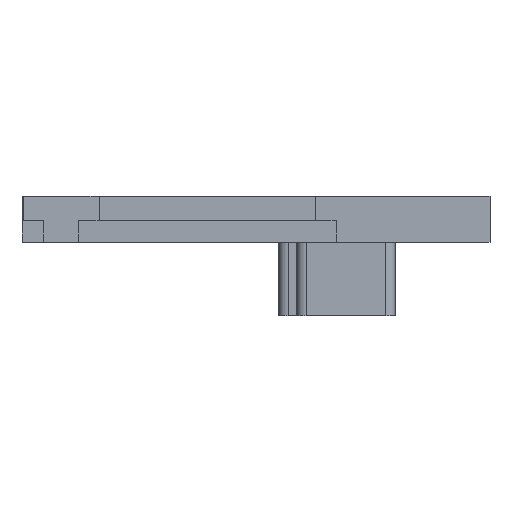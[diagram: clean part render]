
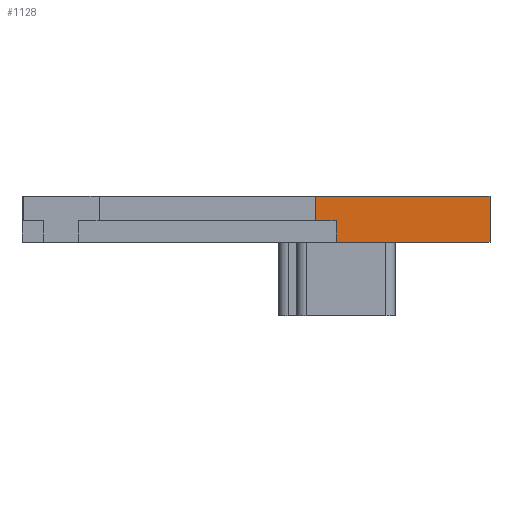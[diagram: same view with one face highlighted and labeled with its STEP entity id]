
A CAD part, front view. The second image highlights one B-rep face of the part: STEP entity #1128.
In plain terms, the highlighted planar face has unit normal (0, -1, 0).
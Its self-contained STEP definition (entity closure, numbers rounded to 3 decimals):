
#32 = PLANE('',#33);
#33 = AXIS2_PLACEMENT_3D('',#34,#35,#36);
#34 = CARTESIAN_POINT('',(-47.,-47.,25.));
#35 = DIRECTION('',(0.,0.,1.));
#36 = DIRECTION('',(1.,0.,-0.));
#331 = VERTEX_POINT('',#332);
#332 = CARTESIAN_POINT('',(35.625,16.5,25.));
#346 = PLANE('',#347);
#347 = AXIS2_PLACEMENT_3D('',#348,#349,#350);
#348 = CARTESIAN_POINT('',(35.625,2.475,21.));
#349 = DIRECTION('',(1.,0.,0.));
#350 = DIRECTION('',(0.,0.,1.));
#358 = EDGE_CURVE('',#359,#331,#361,.T.);
#359 = VERTEX_POINT('',#360);
#360 = CARTESIAN_POINT('',(47.,16.5,25.));
#361 = SURFACE_CURVE('',#362,(#366,#372),.PCURVE_S1.);
#362 = LINE('',#363,#364);
#363 = CARTESIAN_POINT('',(-15.25,16.5,25.));
#364 = VECTOR('',#365,1.);
#365 = DIRECTION('',(-1.,0.,0.));
#366 = PCURVE('',#32,#367);
#367 = DEFINITIONAL_REPRESENTATION('',(#368),#371);
#368 = B_SPLINE_CURVE_WITH_KNOTS('',1,(#369,#370),.UNSPECIFIED.,.F.,.F.,
  (2,2),(-62.25,-31.75),.PIECEWISE_BEZIER_KNOTS.);
#369 = CARTESIAN_POINT('',(94.,63.5));
#370 = CARTESIAN_POINT('',(63.5,63.5));
#371 = ( GEOMETRIC_REPRESENTATION_CONTEXT(2) 
PARAMETRIC_REPRESENTATION_CONTEXT() REPRESENTATION_CONTEXT('2D SPACE',''
  ) );
#372 = PCURVE('',#373,#378);
#373 = PLANE('',#374);
#374 = AXIS2_PLACEMENT_3D('',#375,#376,#377);
#375 = CARTESIAN_POINT('',(16.5,16.5,12.));
#376 = DIRECTION('',(0.,1.,0.));
#377 = DIRECTION('',(0.,0.,1.));
#378 = DEFINITIONAL_REPRESENTATION('',(#379),#382);
#379 = B_SPLINE_CURVE_WITH_KNOTS('',1,(#380,#381),.UNSPECIFIED.,.F.,.F.,
  (2,2),(-62.25,-31.75),.PIECEWISE_BEZIER_KNOTS.);
#380 = CARTESIAN_POINT('',(13.,30.5));
#381 = CARTESIAN_POINT('',(13.,0.));
#382 = ( GEOMETRIC_REPRESENTATION_CONTEXT(2) 
PARAMETRIC_REPRESENTATION_CONTEXT() REPRESENTATION_CONTEXT('2D SPACE',''
  ) );
#400 = PLANE('',#401);
#401 = AXIS2_PLACEMENT_3D('',#402,#403,#404);
#402 = CARTESIAN_POINT('',(47.,-47.,22.));
#403 = DIRECTION('',(1.,0.,0.));
#404 = DIRECTION('',(0.,0.,1.));
#975 = PLANE('',#976);
#976 = AXIS2_PLACEMENT_3D('',#977,#978,#979);
#977 = CARTESIAN_POINT('',(-47.,-47.,22.));
#978 = DIRECTION('',(0.,0.,1.));
#979 = DIRECTION('',(1.,0.,-0.));
#1084 = EDGE_CURVE('',#1085,#359,#1087,.T.);
#1085 = VERTEX_POINT('',#1086);
#1086 = CARTESIAN_POINT('',(47.,16.5,22.));
#1087 = SURFACE_CURVE('',#1088,(#1092,#1099),.PCURVE_S1.);
#1088 = LINE('',#1089,#1090);
#1089 = CARTESIAN_POINT('',(47.,16.5,12.));
#1090 = VECTOR('',#1091,1.);
#1091 = DIRECTION('',(0.,0.,1.));
#1092 = PCURVE('',#400,#1093);
#1093 = DEFINITIONAL_REPRESENTATION('',(#1094),#1098);
#1094 = LINE('',#1095,#1096);
#1095 = CARTESIAN_POINT('',(-10.,-63.5));
#1096 = VECTOR('',#1097,1.);
#1097 = DIRECTION('',(1.,0.));
#1098 = ( GEOMETRIC_REPRESENTATION_CONTEXT(2) 
PARAMETRIC_REPRESENTATION_CONTEXT() REPRESENTATION_CONTEXT('2D SPACE',''
  ) );
#1099 = PCURVE('',#373,#1100);
#1100 = DEFINITIONAL_REPRESENTATION('',(#1101),#1105);
#1101 = LINE('',#1102,#1103);
#1102 = CARTESIAN_POINT('',(0.,30.5));
#1103 = VECTOR('',#1104,1.);
#1104 = DIRECTION('',(1.,0.));
#1105 = ( GEOMETRIC_REPRESENTATION_CONTEXT(2) 
PARAMETRIC_REPRESENTATION_CONTEXT() REPRESENTATION_CONTEXT('2D SPACE',''
  ) );
#1128 = ADVANCED_FACE('',(#1129),#373,.F.);
#1129 = FACE_BOUND('',#1130,.F.);
#1130 = EDGE_LOOP('',(#1131,#1132,#1153,#1179,#1205,#1224));
#1131 = ORIENTED_EDGE('',*,*,#1084,.F.);
#1132 = ORIENTED_EDGE('',*,*,#1133,.T.);
#1133 = EDGE_CURVE('',#1085,#1134,#1136,.T.);
#1134 = VERTEX_POINT('',#1135);
#1135 = CARTESIAN_POINT('',(36.975,16.5,22.));
#1136 = SURFACE_CURVE('',#1137,(#1141,#1147),.PCURVE_S1.);
#1137 = LINE('',#1138,#1139);
#1138 = CARTESIAN_POINT('',(-15.25,16.5,22.));
#1139 = VECTOR('',#1140,1.);
#1140 = DIRECTION('',(-1.,0.,0.));
#1141 = PCURVE('',#373,#1142);
#1142 = DEFINITIONAL_REPRESENTATION('',(#1143),#1146);
#1143 = B_SPLINE_CURVE_WITH_KNOTS('',1,(#1144,#1145),.UNSPECIFIED.,.F.,
  .F.,(2,2),(-62.25,-31.75),.PIECEWISE_BEZIER_KNOTS.);
#1144 = CARTESIAN_POINT('',(10.,30.5));
#1145 = CARTESIAN_POINT('',(10.,0.));
#1146 = ( GEOMETRIC_REPRESENTATION_CONTEXT(2) 
PARAMETRIC_REPRESENTATION_CONTEXT() REPRESENTATION_CONTEXT('2D SPACE',''
  ) );
#1147 = PCURVE('',#975,#1148);
#1148 = DEFINITIONAL_REPRESENTATION('',(#1149),#1152);
#1149 = B_SPLINE_CURVE_WITH_KNOTS('',1,(#1150,#1151),.UNSPECIFIED.,.F.,
  .F.,(2,2),(-62.25,-31.75),.PIECEWISE_BEZIER_KNOTS.);
#1150 = CARTESIAN_POINT('',(94.,63.5));
#1151 = CARTESIAN_POINT('',(63.5,63.5));
#1152 = ( GEOMETRIC_REPRESENTATION_CONTEXT(2) 
PARAMETRIC_REPRESENTATION_CONTEXT() REPRESENTATION_CONTEXT('2D SPACE',''
  ) );
#1153 = ORIENTED_EDGE('',*,*,#1154,.T.);
#1154 = EDGE_CURVE('',#1134,#1155,#1157,.T.);
#1155 = VERTEX_POINT('',#1156);
#1156 = CARTESIAN_POINT('',(36.975,16.5,23.4));
#1157 = SURFACE_CURVE('',#1158,(#1162,#1168),.PCURVE_S1.);
#1158 = LINE('',#1159,#1160);
#1159 = CARTESIAN_POINT('',(36.975,16.5,16.995));
#1160 = VECTOR('',#1161,1.);
#1161 = DIRECTION('',(0.,0.,1.));
#1162 = PCURVE('',#373,#1163);
#1163 = DEFINITIONAL_REPRESENTATION('',(#1164),#1167);
#1164 = B_SPLINE_CURVE_WITH_KNOTS('',1,(#1165,#1166),.UNSPECIFIED.,.F.,
  .F.,(2,2),(5.005,6.405),.PIECEWISE_BEZIER_KNOTS.);
#1165 = CARTESIAN_POINT('',(10.,20.475));
#1166 = CARTESIAN_POINT('',(11.4,20.475));
#1167 = ( GEOMETRIC_REPRESENTATION_CONTEXT(2) 
PARAMETRIC_REPRESENTATION_CONTEXT() REPRESENTATION_CONTEXT('2D SPACE',''
  ) );
#1168 = PCURVE('',#1169,#1174);
#1169 = PLANE('',#1170);
#1170 = AXIS2_PLACEMENT_3D('',#1171,#1172,#1173);
#1171 = CARTESIAN_POINT('',(36.975,1.125,21.99));
#1172 = DIRECTION('',(1.,0.,0.));
#1173 = DIRECTION('',(0.,0.,1.));
#1174 = DEFINITIONAL_REPRESENTATION('',(#1175),#1178);
#1175 = B_SPLINE_CURVE_WITH_KNOTS('',1,(#1176,#1177),.UNSPECIFIED.,.F.,
  .F.,(2,2),(5.005,6.405),.PIECEWISE_BEZIER_KNOTS.);
#1176 = CARTESIAN_POINT('',(0.01,-15.375));
#1177 = CARTESIAN_POINT('',(1.41,-15.375));
#1178 = ( GEOMETRIC_REPRESENTATION_CONTEXT(2) 
PARAMETRIC_REPRESENTATION_CONTEXT() REPRESENTATION_CONTEXT('2D SPACE',''
  ) );
#1179 = ORIENTED_EDGE('',*,*,#1180,.T.);
#1180 = EDGE_CURVE('',#1155,#1181,#1183,.T.);
#1181 = VERTEX_POINT('',#1182);
#1182 = CARTESIAN_POINT('',(35.625,16.5,23.4));
#1183 = SURFACE_CURVE('',#1184,(#1188,#1194),.PCURVE_S1.);
#1184 = LINE('',#1185,#1186);
#1185 = CARTESIAN_POINT('',(18.338,16.5,23.4));
#1186 = VECTOR('',#1187,1.);
#1187 = DIRECTION('',(-1.,0.,0.));
#1188 = PCURVE('',#373,#1189);
#1189 = DEFINITIONAL_REPRESENTATION('',(#1190),#1193);
#1190 = B_SPLINE_CURVE_WITH_KNOTS('',1,(#1191,#1192),.UNSPECIFIED.,.F.,
  .F.,(2,2),(-18.638,-1.838),.PIECEWISE_BEZIER_KNOTS.);
#1191 = CARTESIAN_POINT('',(11.4,20.475));
#1192 = CARTESIAN_POINT('',(11.4,3.675));
#1193 = ( GEOMETRIC_REPRESENTATION_CONTEXT(2) 
PARAMETRIC_REPRESENTATION_CONTEXT() REPRESENTATION_CONTEXT('2D SPACE',''
  ) );
#1194 = PCURVE('',#1195,#1200);
#1195 = PLANE('',#1196);
#1196 = AXIS2_PLACEMENT_3D('',#1197,#1198,#1199);
#1197 = CARTESIAN_POINT('',(20.175,1.125,23.4));
#1198 = DIRECTION('',(0.,0.,1.));
#1199 = DIRECTION('',(1.,0.,-0.));
#1200 = DEFINITIONAL_REPRESENTATION('',(#1201),#1204);
#1201 = B_SPLINE_CURVE_WITH_KNOTS('',1,(#1202,#1203),.UNSPECIFIED.,.F.,
  .F.,(2,2),(-18.638,-1.838),.PIECEWISE_BEZIER_KNOTS.);
#1202 = CARTESIAN_POINT('',(16.8,15.375));
#1203 = CARTESIAN_POINT('',(0.,15.375));
#1204 = ( GEOMETRIC_REPRESENTATION_CONTEXT(2) 
PARAMETRIC_REPRESENTATION_CONTEXT() REPRESENTATION_CONTEXT('2D SPACE',''
  ) );
#1205 = ORIENTED_EDGE('',*,*,#1206,.T.);
#1206 = EDGE_CURVE('',#1181,#331,#1207,.T.);
#1207 = SURFACE_CURVE('',#1208,(#1212,#1218),.PCURVE_S1.);
#1208 = LINE('',#1209,#1210);
#1209 = CARTESIAN_POINT('',(35.625,16.5,16.5));
#1210 = VECTOR('',#1211,1.);
#1211 = DIRECTION('',(0.,0.,1.));
#1212 = PCURVE('',#373,#1213);
#1213 = DEFINITIONAL_REPRESENTATION('',(#1214),#1217);
#1214 = B_SPLINE_CURVE_WITH_KNOTS('',1,(#1215,#1216),.UNSPECIFIED.,.F.,
  .F.,(2,2),(6.9,8.5),.PIECEWISE_BEZIER_KNOTS.);
#1215 = CARTESIAN_POINT('',(11.4,19.125));
#1216 = CARTESIAN_POINT('',(13.,19.125));
#1217 = ( GEOMETRIC_REPRESENTATION_CONTEXT(2) 
PARAMETRIC_REPRESENTATION_CONTEXT() REPRESENTATION_CONTEXT('2D SPACE',''
  ) );
#1218 = PCURVE('',#346,#1219);
#1219 = DEFINITIONAL_REPRESENTATION('',(#1220),#1223);
#1220 = B_SPLINE_CURVE_WITH_KNOTS('',1,(#1221,#1222),.UNSPECIFIED.,.F.,
  .F.,(2,2),(6.9,8.5),.PIECEWISE_BEZIER_KNOTS.);
#1221 = CARTESIAN_POINT('',(2.4,-14.025));
#1222 = CARTESIAN_POINT('',(4.,-14.025));
#1223 = ( GEOMETRIC_REPRESENTATION_CONTEXT(2) 
PARAMETRIC_REPRESENTATION_CONTEXT() REPRESENTATION_CONTEXT('2D SPACE',''
  ) );
#1224 = ORIENTED_EDGE('',*,*,#358,.F.);
